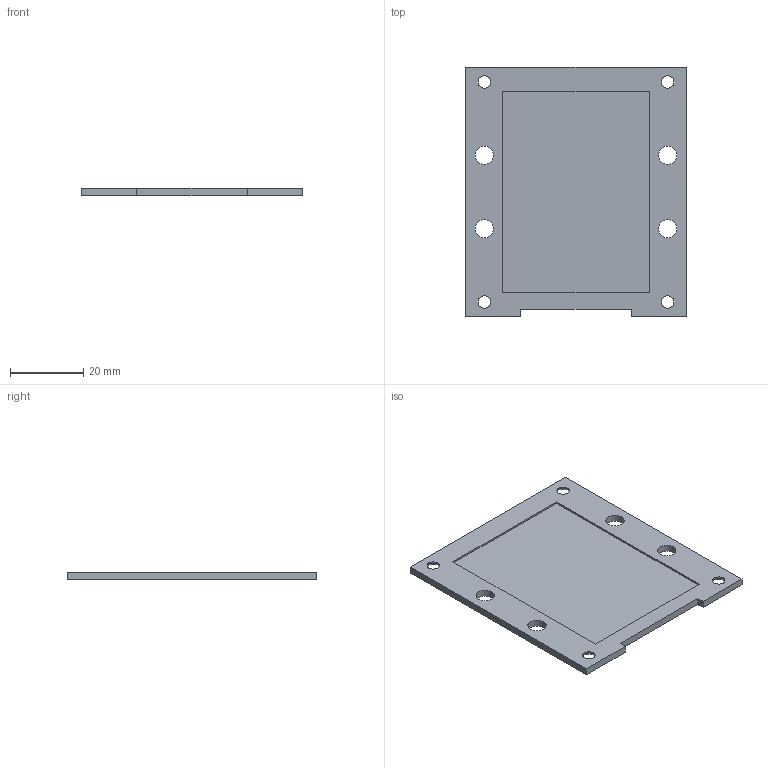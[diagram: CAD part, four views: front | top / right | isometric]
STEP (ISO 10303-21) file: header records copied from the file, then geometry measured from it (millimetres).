
FILE_DESCRIPTION(/* description */ (''),/* implementation_level */ '2;1');
FILE_NAME(/* name */ '',/* time_stamp */ '2026-05-15T16:58:47+08:00',/* author */ ('32769'),/* organization */ (''),/* preprocessor_version */ 'ST-DEVELOPER v20',/* originating_system */ 'Autodesk Inventor 2025',/* authorisation */ '');
FILE_SCHEMA (('AUTOMOTIVE_DESIGN { 1 0 10303 214 3 1 1 }'));
Length unit declared in the file: millimetre
Products named in the file (1): 底面掩膜板(1)
Bounding box: 60 x 68 x 2 mm (x, y, z)
Volume: 6638.4 mm3; surface area: 8609.7 mm2
Topology: 1 solids, 1 shells, 27 faces, 68 edges, 45 vertices
Faces by surface type: plane 15, cylinder 8, cone 4
Full cylindrical faces by diameter (mm): 3.4 x4, 5 x4
Entity records: 896 total; most frequent: DIRECTION 144, CARTESIAN_POINT 141, ORIENTED_EDGE 136, EDGE_CURVE 68, LINE 48, VECTOR 48, AXIS2_PLACEMENT_3D 48, EDGE_LOOP 44
